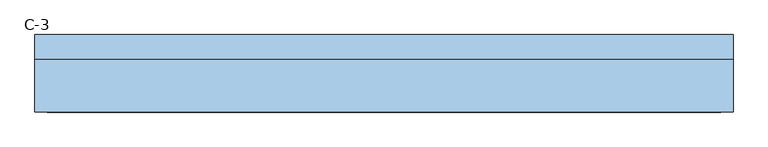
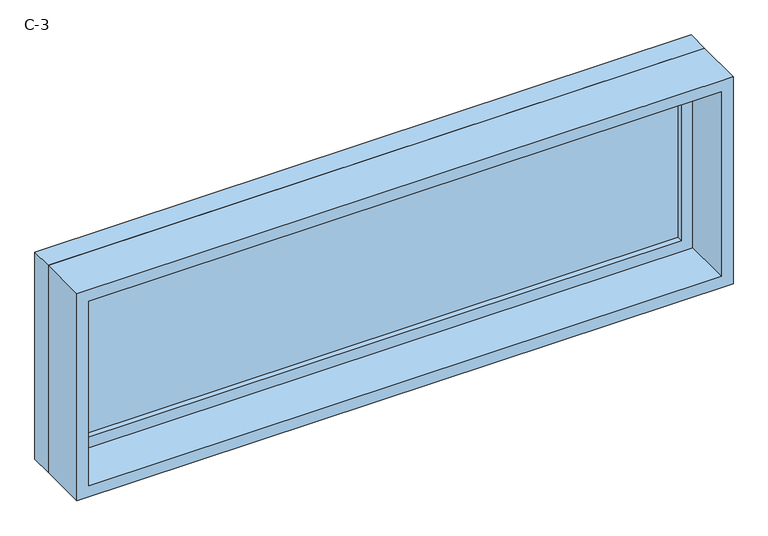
"""IFC4 building model written with IfcOpenShell, lengths in millimetres: window geometry, 固定 : C-3."""

from ifc_helpers import new_model, si_unit, frame, origin, place, context, project, spatial, polyline, outline, extrude, source, transform, mapped, element, save


def c_3_d5226f5c(model_context):
    return source(origin(), model_context, "Body", "SweptSolid", [
        extrude(outline(polyline([(-837.0, 78.0), (837.0, 78.0), (837.0, 66.0), (-837.0, 66.0), (-837.0, 78.0)])), frame((0.0, 0.0, 1663.0), z_axis=(0.0, 0.0, 1.0), x_axis=(1.0, 0.0, 0.0)), (0.0, 0.0, 1.0), 474.0),
        extrude(outline(polyline([(2181.0, -881.0), (1619.0, -881.0), (1619.0, 881.0), (2181.0, 881.0), (2181.0, -881.0)]), holes=[polyline([(2137.0, -837.0), (2137.0, 837.0), (1663.0, 837.0), (1663.0, -837.0), (2137.0, -837.0)])]), frame((0.0, 50.0, 0.0), z_axis=(0.0, 1.0, 0.0), x_axis=(0.0, 0.0, 1.0)), (0.0, 0.0, 1.0), 44.0),
        extrude(outline(polyline([(2200.0, -900.0), (1600.0, -900.0), (1600.0, 900.0), (2200.0, 900.0), (2200.0, -900.0)]), holes=[polyline([(2181.0, -881.0), (2181.0, 881.0), (1619.0, 881.0), (1619.0, -881.0), (2181.0, -881.0)])]), frame((0.0, 50.0, 0.0), z_axis=(0.0, 1.0, 0.0), x_axis=(0.0, 0.0, 1.0)), (0.0, 0.0, 1.0), 63.0),
        extrude(outline(polyline([(2200.0, -900.0), (1600.0, -900.0), (1600.0, 900.0), (2200.0, 900.0), (2200.0, -900.0)]), holes=[polyline([(2168.0, -868.0), (2168.0, 868.0), (1632.0, 868.0), (1632.0, -868.0), (2168.0, -868.0)])]), frame((0.0, -87.0, 0.0), z_axis=(0.0, 1.0, 0.0), x_axis=(0.0, 0.0, 1.0)), (0.0, 0.0, 1.0), 137.0),
    ])


if __name__ == "__main__":
    model = new_model("IFC4")
    model_context = context("Model", 3, world=origin())
    ifc_project = project(units=[si_unit("LENGTHUNIT", "METRE", prefix="MILLI")], contexts=[model_context])
    site = spatial("IfcSite", under=ifc_project)
    building = spatial("IfcBuilding", under=site)
    placement = place(None, origin())
    c_3_shape = c_3_d5226f5c(model_context)
    element("IfcWindow", 1, ObjectType="固定 : C-3", at=placement, inside=building, context=model_context, shape_type="MappedRepresentation", body=[
        mapped(c_3_shape, transform((0.0, 0.0, 0.0), x_axis=(1.0, 0.0, 0.0), y_axis=(0.0, 1.0, 0.0), z_axis=(0.0, 0.0, 1.0))),
    ])
    save(model, "model.ifc")
